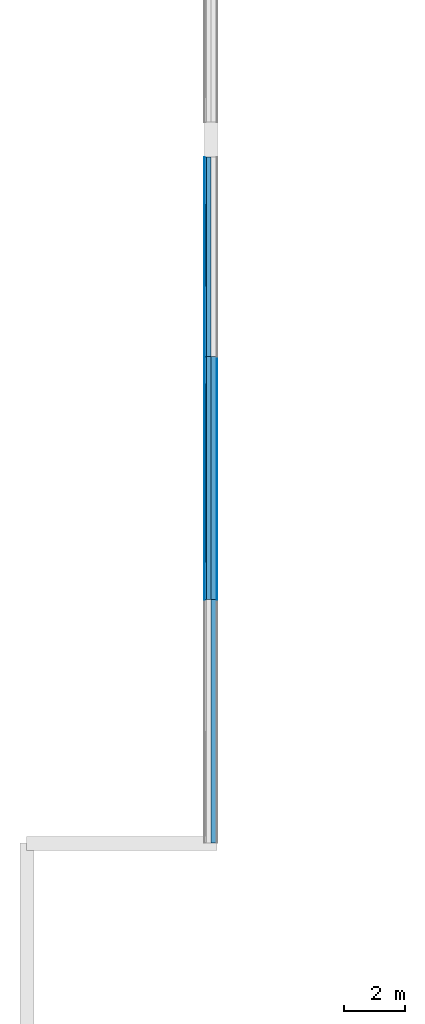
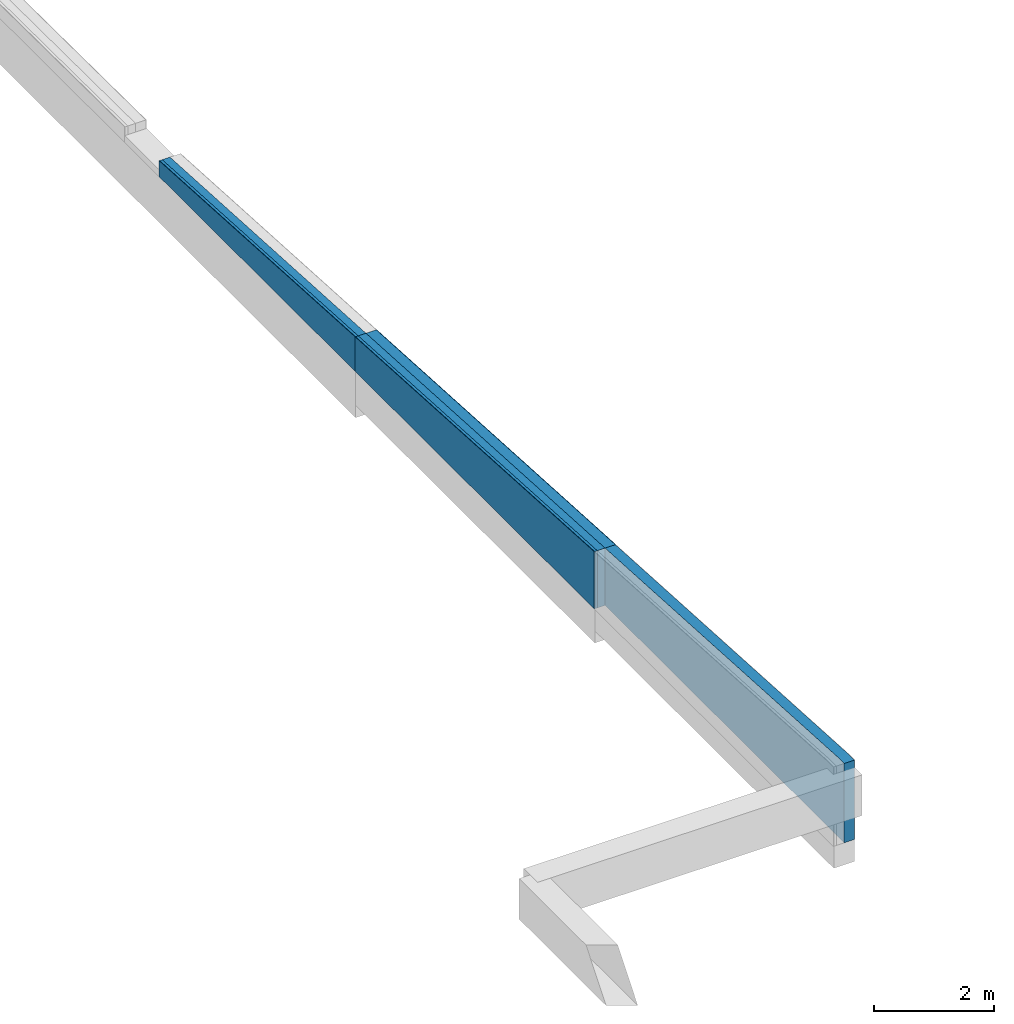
# One storey, part 6 of 17: 9 building element parts, 3 elements without a shape of their own.
"""IFC2X3 building model written with IfcOpenShell, lengths in millimetres."""

from ifc_helpers import new_model, entity, si_unit, converted_unit, derived_unit, money_unit, direction, frame, origin_with_axes, place, context, subcontext, project, spatial, polyline, outline, extrude, boolean, faceted_brep, material, type_object, element, aggregate, save


model = new_model("IFC2X3")

# Units and contexts
model_context = context("Model", 3, precision=0.01, world=origin_with_axes(), true_north=direction((0.0, 1.0)))
body_context = subcontext(model_context, "Body", "Model", "MODEL_VIEW")
ifc_project = project(units=[si_unit("LENGTHUNIT", "METRE", prefix="MILLI"), si_unit("AREAUNIT", "SQUARE_METRE"), si_unit("VOLUMEUNIT", "CUBIC_METRE"), converted_unit("PLANEANGLEUNIT", "DEGREE", entity("IfcPlaneAngleMeasure", 0.0174532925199), si_unit("PLANEANGLEUNIT", "RADIAN"), dimensions=[0, 0, 0, 0, 0, 0, 0]), si_unit("SOLIDANGLEUNIT", "STERADIAN"), money_unit("EUR"), converted_unit("TIMEUNIT", "Year", entity("IfcTimeMeasure", 31556926.0), si_unit("TIMEUNIT", "SECOND"), dimensions=[0, 0, 1, 0, 0, 0, 0]), si_unit("MASSUNIT", "GRAM", prefix="KILO"), si_unit("THERMODYNAMICTEMPERATUREUNIT", "DEGREE_CELSIUS"), si_unit("LUMINOUSINTENSITYUNIT", "LUMEN"), si_unit("ENERGYUNIT", "JOULE", prefix="MEGA"), derived_unit("THERMALCONDUCTANCEUNIT", [(si_unit("POWERUNIT", "WATT"), 1), (si_unit("LENGTHUNIT", "METRE"), -1), (si_unit("THERMODYNAMICTEMPERATUREUNIT", "KELVIN"), -1)]), derived_unit("SPECIFICHEATCAPACITYUNIT", [(si_unit("ENERGYUNIT", "JOULE"), 1), (si_unit("MASSUNIT", "GRAM", prefix="KILO"), -1), (si_unit("THERMODYNAMICTEMPERATUREUNIT", "KELVIN"), -1)]), derived_unit("MASSDENSITYUNIT", [(si_unit("MASSUNIT", "GRAM", prefix="KILO"), 1), (si_unit("VOLUMEUNIT", "CUBIC_METRE"), -1)])], contexts=[model_context])

# Site, building, storey
site_placement = place(None, origin_with_axes())
site = spatial("IfcSite", under=ifc_project, at=site_placement, Name="Puškini 31, Narva", CompositionType="ELEMENT")
building_placement = place(site_placement, origin_with_axes())
building = spatial("IfcBuilding", under=site, at=building_placement, Name="Narva Riigigümnaasium", CompositionType="ELEMENT")
storey_placement = place(building_placement, frame((0.0, 0.0, -6800.0), z_axis=(0.0, 0.0, 1.0), x_axis=(1.0, 0.0, 0.0)))
storey = spatial("IfcBuildingStorey", under=building, at=storey_placement, Name="0.korrus -6.8", CompositionType="ELEMENT", Elevation=-6800.0)

# Wall, building element parts
wall_type = type_object("IfcWallType", Name="G-VS-02 420", PredefinedType="NOTDEFINED")
wall_1_placement = place(storey_placement, frame((22200.0, 181960.149991, 5330.0), z_axis=(0.0, 0.0, 1.0), x_axis=(0.0, -1.0, 0.0)))
wall_1 = element("IfcWall", 1, at=wall_1_placement, inside=storey, type_object=wall_type, Name="Sisesein")
ifc_material_1 = material(Name="Salto-PIR soojustus")
building_element_part_1_placement = place(wall_1_placement, origin_with_axes())
building_element_part_1 = element("IfcBuildingElementPart", 2, at=building_element_part_1_placement, material=ifc_material_1, Name="Salto-PIR soojustus", context=body_context, shape_type="CSG", body=[
    boolean("DIFFERENCE", boolean("DIFFERENCE", boolean("DIFFERENCE", boolean("DIFFERENCE", boolean("DIFFERENCE", boolean("DIFFERENCE", extrude(outline(polyline([(0.0, -150.0), (6560.14999143, -150.0), (6560.14999143, 0.0), (0.0, 0.0), (0.0, -150.0)])), origin_with_axes(), (0.0, 0.0, 1.0), 1200.0), faceted_brep([(0.0, 200.0, 140.0), (0.0, 210.0, 140.0), (0.0, 210.0, 0.0), (0.0, 200.0, 0.0), (3670.14998109, 210.0, 140.0), (3670.14998109, 200.0, 140.0), (3670.14998109, 210.0, 150.0), (6560.14999143, 210.0, 150.0), (6560.14999143, 210.0, 0.0), (6560.14999143, 200.0, 0.0), (6560.14999143, 200.0, 150.0), (3670.14998109, 200.0, 150.0)], [[[0, 1, 2, 3]], [[4, 1, 0, 5]], [[6, 7, 8, 2, 1, 4]], [[9, 3, 2, 8]], [[5, 0, 3, 9, 10, 11]], [[6, 4, 5, 11]], [[7, 6, 11, 10]], [[7, 10, 9, 8]]])), faceted_brep([(6560.14999143, 210.0, 704.771225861), (0.0, 210.0, 324.423502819), (0.0, 210.0, 1200.0), (6560.14999143, 210.0, 1200.0), (0.0, 200.0, 324.423502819), (6560.14999143, 200.0, 704.771225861), (0.0, 200.0, 1200.0), (6560.14999143, 200.0, 1200.0)], [[[0, 1, 2, 3]], [[4, 1, 0, 5]], [[1, 4, 6, 2]], [[2, 6, 7, 3]], [[5, 0, 3, 7]], [[4, 5, 7, 6]]])), faceted_brep([(6560.14999143, 200.0, 704.771225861), (0.0, 200.0, 324.423502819), (0.0, 200.0, 1200.0), (6560.14999143, 200.0, 1200.0), (0.0, 0.0, 324.423502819), (6560.14999143, 0.0, 704.771225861), (0.0, 0.0, 1200.0), (6560.14999143, 0.0, 1200.0)], [[[0, 1, 2, 3]], [[4, 1, 0, 5]], [[1, 4, 6, 2]], [[2, 6, 7, 3]], [[5, 0, 3, 7]], [[4, 5, 7, 6]]])), faceted_brep([(6560.14999143, 0.0, 704.771225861), (0.0, 0.0, 324.423502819), (0.0, 0.0, 1200.0), (6560.14999143, 0.0, 1200.0), (0.0, -150.0, 324.423502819), (6560.14999143, -150.0, 704.771225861), (0.0, -150.0, 1200.0), (6560.14999143, -150.0, 1200.0)], [[[0, 1, 2, 3]], [[4, 1, 0, 5]], [[1, 4, 6, 2]], [[2, 6, 7, 3]], [[5, 0, 3, 7]], [[4, 5, 7, 6]]])), faceted_brep([(6560.14999143, -150.0, 704.771225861), (0.0, -150.0, 324.423502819), (0.0, -150.0, 1200.0), (6560.14999143, -150.0, 1200.0), (0.0, -200.0, 324.423502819), (6560.14999143, -200.0, 704.771225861), (0.0, -200.0, 1200.0), (6560.14999143, -200.0, 1200.0)], [[[0, 1, 2, 3]], [[4, 1, 0, 5]], [[1, 4, 6, 2]], [[2, 6, 7, 3]], [[5, 0, 3, 7]], [[4, 5, 7, 6]]])), faceted_brep([(6560.14999143, -200.0, 704.771225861), (0.0, -200.0, 324.423502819), (0.0, -200.0, 1200.0), (6560.14999143, -200.0, 1200.0), (0.0, -210.0, 324.423502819), (6560.14999143, -210.0, 704.771225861), (0.0, -210.0, 1200.0), (6560.14999143, -210.0, 1200.0)], [[[0, 1, 2, 3]], [[4, 1, 0, 5]], [[1, 4, 6, 2]], [[2, 6, 7, 3]], [[5, 0, 3, 7]], [[4, 5, 7, 6]]])),
])
building_element_part_2_placement = place(wall_1_placement, origin_with_axes())
building_element_part_2 = element("IfcBuildingElementPart", 3, at=building_element_part_2_placement, material=ifc_material_1, Name="Salto-PIR soojustus", context=body_context, shape_type="CSG", body=[
    boolean("DIFFERENCE", boolean("DIFFERENCE", boolean("DIFFERENCE", boolean("DIFFERENCE", boolean("DIFFERENCE", boolean("DIFFERENCE", extrude(outline(polyline([(0.0, -200.0), (6560.14999143, -200.0), (6560.14999143, -150.0), (0.0, -150.0), (0.0, -200.0)])), origin_with_axes(), (0.0, 0.0, 1.0), 1200.0), faceted_brep([(0.0, 200.0, 140.0), (0.0, 210.0, 140.0), (0.0, 210.0, 0.0), (0.0, 200.0, 0.0), (3670.14998109, 210.0, 140.0), (3670.14998109, 200.0, 140.0), (3670.14998109, 210.0, 150.0), (6560.14999143, 210.0, 150.0), (6560.14999143, 210.0, 0.0), (6560.14999143, 200.0, 0.0), (6560.14999143, 200.0, 150.0), (3670.14998109, 200.0, 150.0)], [[[0, 1, 2, 3]], [[4, 1, 0, 5]], [[6, 7, 8, 2, 1, 4]], [[9, 3, 2, 8]], [[5, 0, 3, 9, 10, 11]], [[6, 4, 5, 11]], [[7, 6, 11, 10]], [[7, 10, 9, 8]]])), faceted_brep([(6560.14999143, 210.0, 704.771225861), (0.0, 210.0, 324.423502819), (0.0, 210.0, 1200.0), (6560.14999143, 210.0, 1200.0), (0.0, 200.0, 324.423502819), (6560.14999143, 200.0, 704.771225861), (0.0, 200.0, 1200.0), (6560.14999143, 200.0, 1200.0)], [[[0, 1, 2, 3]], [[4, 1, 0, 5]], [[1, 4, 6, 2]], [[2, 6, 7, 3]], [[5, 0, 3, 7]], [[4, 5, 7, 6]]])), faceted_brep([(6560.14999143, 200.0, 704.771225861), (0.0, 200.0, 324.423502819), (0.0, 200.0, 1200.0), (6560.14999143, 200.0, 1200.0), (0.0, 0.0, 324.423502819), (6560.14999143, 0.0, 704.771225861), (0.0, 0.0, 1200.0), (6560.14999143, 0.0, 1200.0)], [[[0, 1, 2, 3]], [[4, 1, 0, 5]], [[1, 4, 6, 2]], [[2, 6, 7, 3]], [[5, 0, 3, 7]], [[4, 5, 7, 6]]])), faceted_brep([(6560.14999143, 0.0, 704.771225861), (0.0, 0.0, 324.423502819), (0.0, 0.0, 1200.0), (6560.14999143, 0.0, 1200.0), (0.0, -150.0, 324.423502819), (6560.14999143, -150.0, 704.771225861), (0.0, -150.0, 1200.0), (6560.14999143, -150.0, 1200.0)], [[[0, 1, 2, 3]], [[4, 1, 0, 5]], [[1, 4, 6, 2]], [[2, 6, 7, 3]], [[5, 0, 3, 7]], [[4, 5, 7, 6]]])), faceted_brep([(6560.14999143, -150.0, 704.771225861), (0.0, -150.0, 324.423502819), (0.0, -150.0, 1200.0), (6560.14999143, -150.0, 1200.0), (0.0, -200.0, 324.423502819), (6560.14999143, -200.0, 704.771225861), (0.0, -200.0, 1200.0), (6560.14999143, -200.0, 1200.0)], [[[0, 1, 2, 3]], [[4, 1, 0, 5]], [[1, 4, 6, 2]], [[2, 6, 7, 3]], [[5, 0, 3, 7]], [[4, 5, 7, 6]]])), faceted_brep([(6560.14999143, -200.0, 704.771225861), (0.0, -200.0, 324.423502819), (0.0, -200.0, 1200.0), (6560.14999143, -200.0, 1200.0), (0.0, -210.0, 324.423502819), (6560.14999143, -210.0, 704.771225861), (0.0, -210.0, 1200.0), (6560.14999143, -210.0, 1200.0)], [[[0, 1, 2, 3]], [[4, 1, 0, 5]], [[1, 4, 6, 2]], [[2, 6, 7, 3]], [[5, 0, 3, 7]], [[4, 5, 7, 6]]])),
])
ifc_material_2 = material(Name="Krohv")
building_element_part_3_placement = place(wall_1_placement, origin_with_axes())
building_element_part_3 = element("IfcBuildingElementPart", 4, at=building_element_part_3_placement, material=ifc_material_2, Name="Krohv", context=body_context, shape_type="CSG", body=[
    boolean("DIFFERENCE", boolean("DIFFERENCE", boolean("DIFFERENCE", boolean("DIFFERENCE", boolean("DIFFERENCE", boolean("DIFFERENCE", extrude(outline(polyline([(0.0, -210.0), (6560.14999143, -210.0), (6560.14999143, -200.0), (0.0, -200.0), (0.0, -210.0)])), origin_with_axes(), (0.0, 0.0, 1.0), 1200.0), faceted_brep([(0.0, 200.0, 140.0), (0.0, 210.0, 140.0), (0.0, 210.0, 0.0), (0.0, 200.0, 0.0), (3670.14998109, 210.0, 140.0), (3670.14998109, 200.0, 140.0), (3670.14998109, 210.0, 150.0), (6560.14999143, 210.0, 150.0), (6560.14999143, 210.0, 0.0), (6560.14999143, 200.0, 0.0), (6560.14999143, 200.0, 150.0), (3670.14998109, 200.0, 150.0)], [[[0, 1, 2, 3]], [[4, 1, 0, 5]], [[6, 7, 8, 2, 1, 4]], [[9, 3, 2, 8]], [[5, 0, 3, 9, 10, 11]], [[6, 4, 5, 11]], [[7, 6, 11, 10]], [[7, 10, 9, 8]]])), faceted_brep([(6560.14999143, 210.0, 704.771225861), (0.0, 210.0, 324.423502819), (0.0, 210.0, 1200.0), (6560.14999143, 210.0, 1200.0), (0.0, 200.0, 324.423502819), (6560.14999143, 200.0, 704.771225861), (0.0, 200.0, 1200.0), (6560.14999143, 200.0, 1200.0)], [[[0, 1, 2, 3]], [[4, 1, 0, 5]], [[1, 4, 6, 2]], [[2, 6, 7, 3]], [[5, 0, 3, 7]], [[4, 5, 7, 6]]])), faceted_brep([(6560.14999143, 200.0, 704.771225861), (0.0, 200.0, 324.423502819), (0.0, 200.0, 1200.0), (6560.14999143, 200.0, 1200.0), (0.0, 0.0, 324.423502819), (6560.14999143, 0.0, 704.771225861), (0.0, 0.0, 1200.0), (6560.14999143, 0.0, 1200.0)], [[[0, 1, 2, 3]], [[4, 1, 0, 5]], [[1, 4, 6, 2]], [[2, 6, 7, 3]], [[5, 0, 3, 7]], [[4, 5, 7, 6]]])), faceted_brep([(6560.14999143, 0.0, 704.771225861), (0.0, 0.0, 324.423502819), (0.0, 0.0, 1200.0), (6560.14999143, 0.0, 1200.0), (0.0, -150.0, 324.423502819), (6560.14999143, -150.0, 704.771225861), (0.0, -150.0, 1200.0), (6560.14999143, -150.0, 1200.0)], [[[0, 1, 2, 3]], [[4, 1, 0, 5]], [[1, 4, 6, 2]], [[2, 6, 7, 3]], [[5, 0, 3, 7]], [[4, 5, 7, 6]]])), faceted_brep([(6560.14999143, -150.0, 704.771225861), (0.0, -150.0, 324.423502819), (0.0, -150.0, 1200.0), (6560.14999143, -150.0, 1200.0), (0.0, -200.0, 324.423502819), (6560.14999143, -200.0, 704.771225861), (0.0, -200.0, 1200.0), (6560.14999143, -200.0, 1200.0)], [[[0, 1, 2, 3]], [[4, 1, 0, 5]], [[1, 4, 6, 2]], [[2, 6, 7, 3]], [[5, 0, 3, 7]], [[4, 5, 7, 6]]])), faceted_brep([(6560.14999143, -200.0, 704.771225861), (0.0, -200.0, 324.423502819), (0.0, -200.0, 1200.0), (6560.14999143, -200.0, 1200.0), (0.0, -210.0, 324.423502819), (6560.14999143, -210.0, 704.771225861), (0.0, -210.0, 1200.0), (6560.14999143, -210.0, 1200.0)], [[[0, 1, 2, 3]], [[4, 1, 0, 5]], [[1, 4, 6, 2]], [[2, 6, 7, 3]], [[5, 0, 3, 7]], [[4, 5, 7, 6]]])),
])
aggregate(wall_1, [building_element_part_1, building_element_part_2, building_element_part_3])

wall_2_placement = place(storey_placement, frame((22200.0, 175400.0, 5330.0), z_axis=(0.0, 0.0, 1.0), x_axis=(0.0, -1.0, 0.0)))
wall_2 = element("IfcWall", 5, at=wall_2_placement, inside=storey, type_object=wall_type, Name="Sisesein")
ifc_material_3 = material(Name="Salto-siseviimistlus")
building_element_part_4_placement = place(wall_2_placement, origin_with_axes())
building_element_part_4 = element("IfcBuildingElementPart", 6, at=building_element_part_4_placement, material=ifc_material_3, Name="Salto-siseviimistlus", context=body_context, shape_type="CSG", body=[
    boolean("DIFFERENCE", boolean("DIFFERENCE", boolean("DIFFERENCE", boolean("DIFFERENCE", boolean("DIFFERENCE", boolean("DIFFERENCE", extrude(outline(polyline([(0.0, 200.0), (7999.9998762, 200.0), (7999.9998762, 210.0), (0.0, 210.0), (0.0, 200.0)])), origin_with_axes(), (0.0, 0.0, 1.0), 1500.0), faceted_brep([(0.0, 200.0, 150.0), (-0.000115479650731, 210.0, 150.0), (0.0, 210.0, 0.0), (0.0, 200.0, 0.0), (7999.9998762, 210.0, 150.0), (7999.9998762, 200.0, 150.0), (7999.9998762, 210.0, 0.0), (7999.9998762, 200.0, 0.0)], [[[0, 1, 2, 3]], [[4, 1, 0, 5]], [[1, 4, 6, 2]], [[2, 6, 7, 3]], [[5, 0, 3, 7]], [[4, 5, 7, 6]]])), faceted_brep([(7999.9998762, 210.0, 1168.5993001), (-6.80242635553e-05, 210.0, 704.771221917), (0.0, 210.0, 1500.0), (7999.9998762, 210.0, 1500.0), (0.0, 200.0, 704.771225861), (7999.9998762, 200.0, 1168.5993001), (0.0, 200.0, 1500.0), (7999.9998762, 200.0, 1500.0)], [[[0, 1, 2, 3]], [[4, 1, 0, 5]], [[1, 4, 6, 2]], [[7, 3, 2, 6]], [[5, 0, 3, 7]], [[4, 5, 7, 6]]])), faceted_brep([(7999.9998762, 200.0, 1168.5993001), (0.0, 200.0, 704.771225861), (0.0, 200.0, 1500.0), (7999.9998762, 200.0, 1500.0), (0.0, 0.0, 704.771225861), (7999.9998762, 0.0, 1168.5993001), (0.0, 0.0, 1500.0), (7999.9998762, 0.0, 1500.0)], [[[0, 1, 2, 3]], [[4, 1, 0, 5]], [[1, 4, 6, 2]], [[2, 6, 7, 3]], [[5, 0, 3, 7]], [[4, 5, 7, 6]]])), faceted_brep([(7999.9998762, 0.0, 1168.5993001), (0.0, 0.0, 704.771225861), (0.0, 0.0, 1500.0), (7999.9998762, 0.0, 1500.0), (0.0, -150.0, 704.771225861), (7999.9998762, -150.0, 1168.5993001), (0.0, -150.0, 1500.0), (7999.9998762, -150.0, 1500.0)], [[[0, 1, 2, 3]], [[4, 1, 0, 5]], [[1, 4, 6, 2]], [[2, 6, 7, 3]], [[5, 0, 3, 7]], [[4, 5, 7, 6]]])), faceted_brep([(7999.9998762, -150.0, 1168.5993001), (0.0, -150.0, 704.771225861), (0.0, -150.0, 1500.0), (7999.9998762, -150.0, 1500.0), (0.0, -200.0, 704.771225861), (7999.9998762, -200.0, 1168.5993001), (0.0, -200.0, 1500.0), (7999.9998762, -200.0, 1500.0)], [[[0, 1, 2, 3]], [[4, 1, 0, 5]], [[1, 4, 6, 2]], [[2, 6, 7, 3]], [[5, 0, 3, 7]], [[4, 5, 7, 6]]])), faceted_brep([(7999.9998762, -200.0, 1168.5993001), (0.0, -200.0, 704.771225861), (0.0, -200.0, 1500.0), (7999.9998762, -200.0, 1500.0), (0.0, -210.0, 704.771225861), (7999.9998762, -210.0, 1168.5993001), (0.0, -210.0, 1500.0), (7999.9998762, -210.0, 1500.0)], [[[0, 1, 2, 3]], [[4, 1, 0, 5]], [[1, 4, 6, 2]], [[2, 6, 7, 3]], [[5, 0, 3, 7]], [[4, 5, 7, 6]]])),
])
ifc_material_4 = material(Name="Betoon element")
building_element_part_5_placement = place(wall_2_placement, origin_with_axes())
building_element_part_5 = element("IfcBuildingElementPart", 7, at=building_element_part_5_placement, material=ifc_material_4, Name="Betoon element", context=body_context, shape_type="CSG", body=[
    boolean("DIFFERENCE", boolean("DIFFERENCE", boolean("DIFFERENCE", boolean("DIFFERENCE", boolean("DIFFERENCE", boolean("DIFFERENCE", extrude(outline(polyline([(0.0, 0.0), (7999.9998762, 0.0), (7999.9998762, 200.0), (0.0, 200.0), (0.0, 0.0)])), origin_with_axes(), (0.0, 0.0, 1.0), 1500.0), faceted_brep([(0.0, 200.0, 150.0), (-0.000115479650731, 210.0, 150.0), (0.0, 210.0, 0.0), (0.0, 200.0, 0.0), (7999.9998762, 210.0, 150.0), (7999.9998762, 200.0, 150.0), (7999.9998762, 210.0, 0.0), (7999.9998762, 200.0, 0.0)], [[[0, 1, 2, 3]], [[4, 1, 0, 5]], [[1, 4, 6, 2]], [[2, 6, 7, 3]], [[5, 0, 3, 7]], [[4, 5, 7, 6]]])), faceted_brep([(7999.9998762, 210.0, 1168.5993001), (-6.80242635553e-05, 210.0, 704.771221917), (0.0, 210.0, 1500.0), (7999.9998762, 210.0, 1500.0), (0.0, 200.0, 704.771225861), (7999.9998762, 200.0, 1168.5993001), (0.0, 200.0, 1500.0), (7999.9998762, 200.0, 1500.0)], [[[0, 1, 2, 3]], [[4, 1, 0, 5]], [[1, 4, 6, 2]], [[7, 3, 2, 6]], [[5, 0, 3, 7]], [[4, 5, 7, 6]]])), faceted_brep([(7999.9998762, 200.0, 1168.5993001), (0.0, 200.0, 704.771225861), (0.0, 200.0, 1500.0), (7999.9998762, 200.0, 1500.0), (0.0, 0.0, 704.771225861), (7999.9998762, 0.0, 1168.5993001), (0.0, 0.0, 1500.0), (7999.9998762, 0.0, 1500.0)], [[[0, 1, 2, 3]], [[4, 1, 0, 5]], [[1, 4, 6, 2]], [[2, 6, 7, 3]], [[5, 0, 3, 7]], [[4, 5, 7, 6]]])), faceted_brep([(7999.9998762, 0.0, 1168.5993001), (0.0, 0.0, 704.771225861), (0.0, 0.0, 1500.0), (7999.9998762, 0.0, 1500.0), (0.0, -150.0, 704.771225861), (7999.9998762, -150.0, 1168.5993001), (0.0, -150.0, 1500.0), (7999.9998762, -150.0, 1500.0)], [[[0, 1, 2, 3]], [[4, 1, 0, 5]], [[1, 4, 6, 2]], [[2, 6, 7, 3]], [[5, 0, 3, 7]], [[4, 5, 7, 6]]])), faceted_brep([(7999.9998762, -150.0, 1168.5993001), (0.0, -150.0, 704.771225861), (0.0, -150.0, 1500.0), (7999.9998762, -150.0, 1500.0), (0.0, -200.0, 704.771225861), (7999.9998762, -200.0, 1168.5993001), (0.0, -200.0, 1500.0), (7999.9998762, -200.0, 1500.0)], [[[0, 1, 2, 3]], [[4, 1, 0, 5]], [[1, 4, 6, 2]], [[2, 6, 7, 3]], [[5, 0, 3, 7]], [[4, 5, 7, 6]]])), faceted_brep([(7999.9998762, -200.0, 1168.5993001), (0.0, -200.0, 704.771225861), (0.0, -200.0, 1500.0), (7999.9998762, -200.0, 1500.0), (0.0, -210.0, 704.771225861), (7999.9998762, -210.0, 1168.5993001), (0.0, -210.0, 1500.0), (7999.9998762, -210.0, 1500.0)], [[[0, 1, 2, 3]], [[4, 1, 0, 5]], [[1, 4, 6, 2]], [[2, 6, 7, 3]], [[5, 0, 3, 7]], [[4, 5, 7, 6]]])),
])
building_element_part_6_placement = place(wall_2_placement, origin_with_axes())
building_element_part_6 = element("IfcBuildingElementPart", 8, at=building_element_part_6_placement, material=ifc_material_1, Name="Salto-PIR soojustus", context=body_context, shape_type="CSG", body=[
    boolean("DIFFERENCE", boolean("DIFFERENCE", boolean("DIFFERENCE", boolean("DIFFERENCE", boolean("DIFFERENCE", boolean("DIFFERENCE", extrude(outline(polyline([(0.0, -150.0), (7999.9998762, -150.0), (7999.9998762, 0.0), (0.0, 0.0), (0.0, -150.0)])), origin_with_axes(), (0.0, 0.0, 1.0), 1500.0), faceted_brep([(0.0, 200.0, 150.0), (-0.000115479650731, 210.0, 150.0), (0.0, 210.0, 0.0), (0.0, 200.0, 0.0), (7999.9998762, 210.0, 150.0), (7999.9998762, 200.0, 150.0), (7999.9998762, 210.0, 0.0), (7999.9998762, 200.0, 0.0)], [[[0, 1, 2, 3]], [[4, 1, 0, 5]], [[1, 4, 6, 2]], [[2, 6, 7, 3]], [[5, 0, 3, 7]], [[4, 5, 7, 6]]])), faceted_brep([(7999.9998762, 210.0, 1168.5993001), (-6.80242635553e-05, 210.0, 704.771221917), (0.0, 210.0, 1500.0), (7999.9998762, 210.0, 1500.0), (0.0, 200.0, 704.771225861), (7999.9998762, 200.0, 1168.5993001), (0.0, 200.0, 1500.0), (7999.9998762, 200.0, 1500.0)], [[[0, 1, 2, 3]], [[4, 1, 0, 5]], [[1, 4, 6, 2]], [[7, 3, 2, 6]], [[5, 0, 3, 7]], [[4, 5, 7, 6]]])), faceted_brep([(7999.9998762, 200.0, 1168.5993001), (0.0, 200.0, 704.771225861), (0.0, 200.0, 1500.0), (7999.9998762, 200.0, 1500.0), (0.0, 0.0, 704.771225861), (7999.9998762, 0.0, 1168.5993001), (0.0, 0.0, 1500.0), (7999.9998762, 0.0, 1500.0)], [[[0, 1, 2, 3]], [[4, 1, 0, 5]], [[1, 4, 6, 2]], [[2, 6, 7, 3]], [[5, 0, 3, 7]], [[4, 5, 7, 6]]])), faceted_brep([(7999.9998762, 0.0, 1168.5993001), (0.0, 0.0, 704.771225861), (0.0, 0.0, 1500.0), (7999.9998762, 0.0, 1500.0), (0.0, -150.0, 704.771225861), (7999.9998762, -150.0, 1168.5993001), (0.0, -150.0, 1500.0), (7999.9998762, -150.0, 1500.0)], [[[0, 1, 2, 3]], [[4, 1, 0, 5]], [[1, 4, 6, 2]], [[2, 6, 7, 3]], [[5, 0, 3, 7]], [[4, 5, 7, 6]]])), faceted_brep([(7999.9998762, -150.0, 1168.5993001), (0.0, -150.0, 704.771225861), (0.0, -150.0, 1500.0), (7999.9998762, -150.0, 1500.0), (0.0, -200.0, 704.771225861), (7999.9998762, -200.0, 1168.5993001), (0.0, -200.0, 1500.0), (7999.9998762, -200.0, 1500.0)], [[[0, 1, 2, 3]], [[4, 1, 0, 5]], [[1, 4, 6, 2]], [[2, 6, 7, 3]], [[5, 0, 3, 7]], [[4, 5, 7, 6]]])), faceted_brep([(7999.9998762, -200.0, 1168.5993001), (0.0, -200.0, 704.771225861), (0.0, -200.0, 1500.0), (7999.9998762, -200.0, 1500.0), (0.0, -210.0, 704.771225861), (7999.9998762, -210.0, 1168.5993001), (0.0, -210.0, 1500.0), (7999.9998762, -210.0, 1500.0)], [[[0, 1, 2, 3]], [[4, 1, 0, 5]], [[1, 4, 6, 2]], [[2, 6, 7, 3]], [[5, 0, 3, 7]], [[4, 5, 7, 6]]])),
])
building_element_part_7_placement = place(wall_2_placement, origin_with_axes())
building_element_part_7 = element("IfcBuildingElementPart", 9, at=building_element_part_7_placement, material=ifc_material_1, Name="Salto-PIR soojustus", context=body_context, shape_type="CSG", body=[
    boolean("DIFFERENCE", boolean("DIFFERENCE", boolean("DIFFERENCE", boolean("DIFFERENCE", boolean("DIFFERENCE", boolean("DIFFERENCE", extrude(outline(polyline([(0.0, -200.0), (7999.9998762, -200.0), (7999.9998762, -150.0), (0.0, -150.0), (0.0, -200.0)])), origin_with_axes(), (0.0, 0.0, 1.0), 1500.0), faceted_brep([(0.0, 200.0, 150.0), (-0.000115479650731, 210.0, 150.0), (0.0, 210.0, 0.0), (0.0, 200.0, 0.0), (7999.9998762, 210.0, 150.0), (7999.9998762, 200.0, 150.0), (7999.9998762, 210.0, 0.0), (7999.9998762, 200.0, 0.0)], [[[0, 1, 2, 3]], [[4, 1, 0, 5]], [[1, 4, 6, 2]], [[2, 6, 7, 3]], [[5, 0, 3, 7]], [[4, 5, 7, 6]]])), faceted_brep([(7999.9998762, 210.0, 1168.5993001), (-6.80242635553e-05, 210.0, 704.771221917), (0.0, 210.0, 1500.0), (7999.9998762, 210.0, 1500.0), (0.0, 200.0, 704.771225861), (7999.9998762, 200.0, 1168.5993001), (0.0, 200.0, 1500.0), (7999.9998762, 200.0, 1500.0)], [[[0, 1, 2, 3]], [[4, 1, 0, 5]], [[1, 4, 6, 2]], [[7, 3, 2, 6]], [[5, 0, 3, 7]], [[4, 5, 7, 6]]])), faceted_brep([(7999.9998762, 200.0, 1168.5993001), (0.0, 200.0, 704.771225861), (0.0, 200.0, 1500.0), (7999.9998762, 200.0, 1500.0), (0.0, 0.0, 704.771225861), (7999.9998762, 0.0, 1168.5993001), (0.0, 0.0, 1500.0), (7999.9998762, 0.0, 1500.0)], [[[0, 1, 2, 3]], [[4, 1, 0, 5]], [[1, 4, 6, 2]], [[2, 6, 7, 3]], [[5, 0, 3, 7]], [[4, 5, 7, 6]]])), faceted_brep([(7999.9998762, 0.0, 1168.5993001), (0.0, 0.0, 704.771225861), (0.0, 0.0, 1500.0), (7999.9998762, 0.0, 1500.0), (0.0, -150.0, 704.771225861), (7999.9998762, -150.0, 1168.5993001), (0.0, -150.0, 1500.0), (7999.9998762, -150.0, 1500.0)], [[[0, 1, 2, 3]], [[4, 1, 0, 5]], [[1, 4, 6, 2]], [[2, 6, 7, 3]], [[5, 0, 3, 7]], [[4, 5, 7, 6]]])), faceted_brep([(7999.9998762, -150.0, 1168.5993001), (0.0, -150.0, 704.771225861), (0.0, -150.0, 1500.0), (7999.9998762, -150.0, 1500.0), (0.0, -200.0, 704.771225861), (7999.9998762, -200.0, 1168.5993001), (0.0, -200.0, 1500.0), (7999.9998762, -200.0, 1500.0)], [[[0, 1, 2, 3]], [[4, 1, 0, 5]], [[1, 4, 6, 2]], [[2, 6, 7, 3]], [[5, 0, 3, 7]], [[4, 5, 7, 6]]])), faceted_brep([(7999.9998762, -200.0, 1168.5993001), (0.0, -200.0, 704.771225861), (0.0, -200.0, 1500.0), (7999.9998762, -200.0, 1500.0), (0.0, -210.0, 704.771225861), (7999.9998762, -210.0, 1168.5993001), (0.0, -210.0, 1500.0), (7999.9998762, -210.0, 1500.0)], [[[0, 1, 2, 3]], [[4, 1, 0, 5]], [[1, 4, 6, 2]], [[2, 6, 7, 3]], [[5, 0, 3, 7]], [[4, 5, 7, 6]]])),
])
building_element_part_8_placement = place(wall_2_placement, origin_with_axes())
building_element_part_8 = element("IfcBuildingElementPart", 10, at=building_element_part_8_placement, material=ifc_material_2, Name="Krohv", context=body_context, shape_type="CSG", body=[
    boolean("DIFFERENCE", boolean("DIFFERENCE", boolean("DIFFERENCE", boolean("DIFFERENCE", boolean("DIFFERENCE", boolean("DIFFERENCE", extrude(outline(polyline([(0.0, -210.0), (7999.9998762, -210.0), (7999.9998762, -200.0), (0.0, -200.0), (0.0, -210.0)])), origin_with_axes(), (0.0, 0.0, 1.0), 1500.0), faceted_brep([(0.0, 200.0, 150.0), (-0.000115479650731, 210.0, 150.0), (0.0, 210.0, 0.0), (0.0, 200.0, 0.0), (7999.9998762, 210.0, 150.0), (7999.9998762, 200.0, 150.0), (7999.9998762, 210.0, 0.0), (7999.9998762, 200.0, 0.0)], [[[0, 1, 2, 3]], [[4, 1, 0, 5]], [[1, 4, 6, 2]], [[2, 6, 7, 3]], [[5, 0, 3, 7]], [[4, 5, 7, 6]]])), faceted_brep([(7999.9998762, 210.0, 1168.5993001), (-6.80242635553e-05, 210.0, 704.771221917), (0.0, 210.0, 1500.0), (7999.9998762, 210.0, 1500.0), (0.0, 200.0, 704.771225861), (7999.9998762, 200.0, 1168.5993001), (0.0, 200.0, 1500.0), (7999.9998762, 200.0, 1500.0)], [[[0, 1, 2, 3]], [[4, 1, 0, 5]], [[1, 4, 6, 2]], [[7, 3, 2, 6]], [[5, 0, 3, 7]], [[4, 5, 7, 6]]])), faceted_brep([(7999.9998762, 200.0, 1168.5993001), (0.0, 200.0, 704.771225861), (0.0, 200.0, 1500.0), (7999.9998762, 200.0, 1500.0), (0.0, 0.0, 704.771225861), (7999.9998762, 0.0, 1168.5993001), (0.0, 0.0, 1500.0), (7999.9998762, 0.0, 1500.0)], [[[0, 1, 2, 3]], [[4, 1, 0, 5]], [[1, 4, 6, 2]], [[2, 6, 7, 3]], [[5, 0, 3, 7]], [[4, 5, 7, 6]]])), faceted_brep([(7999.9998762, 0.0, 1168.5993001), (0.0, 0.0, 704.771225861), (0.0, 0.0, 1500.0), (7999.9998762, 0.0, 1500.0), (0.0, -150.0, 704.771225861), (7999.9998762, -150.0, 1168.5993001), (0.0, -150.0, 1500.0), (7999.9998762, -150.0, 1500.0)], [[[0, 1, 2, 3]], [[4, 1, 0, 5]], [[1, 4, 6, 2]], [[2, 6, 7, 3]], [[5, 0, 3, 7]], [[4, 5, 7, 6]]])), faceted_brep([(7999.9998762, -150.0, 1168.5993001), (0.0, -150.0, 704.771225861), (0.0, -150.0, 1500.0), (7999.9998762, -150.0, 1500.0), (0.0, -200.0, 704.771225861), (7999.9998762, -200.0, 1168.5993001), (0.0, -200.0, 1500.0), (7999.9998762, -200.0, 1500.0)], [[[0, 1, 2, 3]], [[4, 1, 0, 5]], [[1, 4, 6, 2]], [[2, 6, 7, 3]], [[5, 0, 3, 7]], [[4, 5, 7, 6]]])), faceted_brep([(7999.9998762, -200.0, 1168.5993001), (0.0, -200.0, 704.771225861), (0.0, -200.0, 1500.0), (7999.9998762, -200.0, 1500.0), (0.0, -210.0, 704.771225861), (7999.9998762, -210.0, 1168.5993001), (0.0, -210.0, 1500.0), (7999.9998762, -210.0, 1500.0)], [[[0, 1, 2, 3]], [[4, 1, 0, 5]], [[1, 4, 6, 2]], [[2, 6, 7, 3]], [[5, 0, 3, 7]], [[4, 5, 7, 6]]])),
])
aggregate(wall_2, [building_element_part_4, building_element_part_5, building_element_part_6, building_element_part_7, building_element_part_8])

# Wall, building element part
wall_3_placement = place(storey_placement, frame((22200.0, 167400.000124, 5330.0), z_axis=(0.0, 0.0, 1.0), x_axis=(0.0, -1.0, 0.0)))
wall_3 = element("IfcWall", 11, at=wall_3_placement, inside=storey, type_object=wall_type, Name="Sisesein")
building_element_part_9_placement = place(wall_3_placement, origin_with_axes())
solid = boolean("DIFFERENCE", boolean("DIFFERENCE", boolean("DIFFERENCE", boolean("DIFFERENCE", boolean("DIFFERENCE", boolean("DIFFERENCE", boolean("DIFFERENCE", boolean("DIFFERENCE", extrude(outline(polyline([(0.0, 0.0), (8250.0001238, 0.0), (8250.0001238, 200.0), (0.0, 200.0), (0.0, 0.0)])), origin_with_axes(), (0.0, 0.0, 1.0), 1620.00000268), faceted_brep([(8000.0001238, 209.999998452, 640.0), (7800.0001238, 209.999998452, 640.0), (7800.0001238, 209.999998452, 1470.0), (8000.0001238, 209.999998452, 1470.0), (8000.0001238, 210.0, 1620.00000268), (8250.0001238, 210.0, 1620.00000268), (8250.0001238, 210.0, 0.0), (8000.0001238, 210.0, 0.0), (8000.0001238, 199.99999894, 640.0), (7800.0001238, 199.999997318, 640.0), (7800.0001238, 199.999997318, 1470.0), (8000.0001238, 199.999997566, 1470.0), (8000.0001238, 199.999997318, 1620.00000268), (8250.0001238, 200.0, 1620.00000268), (8250.0001238, 200.0, 0.0), (8000.0001238, 200.0, 0.0)], [[[0, 1, 2, 3, 4, 5, 6, 7]], [[1, 0, 8, 9]], [[2, 1, 9, 10]], [[3, 2, 10, 11]], [[12, 4, 3, 11]], [[4, 12, 13, 5]], [[13, 14, 6, 5]], [[15, 7, 6, 14]], [[0, 7, 15, 8]], [[8, 15, 14, 13, 12, 11, 10, 9]]])), faceted_brep([(0.0, 200.0, 150.0), (0.0, 210.0, 150.0), (0.0, 210.0, 0.0), (0.0, 200.0, 0.0), (4470.28537503, 209.999998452, 150.0), (190.000188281, 199.999997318, 150.0), (4470.28537503, 199.999997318, 150.0), (4470.28537503, 210.0, 0.0), (4470.28537503, 200.0, 0.0)], [[[0, 1, 2, 3]], [[4, 1, 0, 5, 6]], [[4, 7, 2, 1]], [[7, 8, 3, 2]], [[5, 0, 3, 8, 6]], [[7, 4, 6, 8]]])), faceted_brep([(7785.65542872, 210.0, 1620.00000261), (0.0, 210.0, 1168.5993001), (0.0, 210.0, 1620.00000268), (0.0, 200.0, 1168.5993001), (7785.65542872, 199.99999739, 1620.00000261), (0.0, 200.0, 1620.00000268)], [[[0, 1, 2]], [[3, 1, 0, 4]], [[1, 3, 5, 2]], [[4, 0, 2, 5]], [[3, 4, 5]]])), faceted_brep([(8000.0001238, 199.999997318, 1620.00000268), (8250.0001238, 200.0, 1620.00000268), (8250.0001238, 200.0, 0.0), (8000.0001238, 200.0, 0.0), (8000.0001238, 0.0, 1620.00000268), (8250.0001238, 0.0, 1620.00000268), (8250.0001238, 0.0, 0.0), (8000.0001238, 0.0, 0.0)], [[[0, 1, 2, 3]], [[0, 4, 5, 1]], [[5, 6, 2, 1]], [[7, 3, 2, 6]], [[4, 0, 3, 7]], [[7, 6, 5, 4]]])), faceted_brep([(7785.65542872, 199.99999739, 1620.00000261), (0.0, 200.0, 1168.5993001), (0.0, 200.0, 1620.00000268), (0.0, 0.0, 1168.5993001), (7785.65542872, 0.0, 1620.00000261), (0.0, 0.0, 1620.00000268)], [[[0, 1, 2]], [[3, 1, 0, 4]], [[1, 3, 5, 2]], [[4, 0, 2, 5]], [[3, 4, 5]]])), faceted_brep([(8000.0001238, 0.0, 640.0), (7850.0001238, 0.0, 640.0), (7850.0001238, 0.0, 1470.0), (8000.0001238, 0.0, 1470.0), (8000.0001238, 0.0, 1620.00000268), (8250.0001238, 0.0, 1620.00000268), (8250.0001238, 0.0, 0.0), (8000.0001238, 0.0, 0.0), (8000.0001238, -150.0, 640.0), (7850.0001238, -150.0, 640.0), (7850.0001238, -150.0, 1470.0), (8000.0001238, -150.0, 1470.0), (8000.0001238, -150.0, 1620.00000268), (8250.0001238, -150.0, 1620.00000268), (8250.0001238, -150.0, 0.0), (8000.0001238, -150.0, 0.0)], [[[0, 1, 2, 3, 4, 5, 6, 7]], [[1, 0, 8, 9]], [[2, 1, 9, 10]], [[3, 2, 10, 11]], [[12, 4, 3, 11]], [[4, 12, 13, 5]], [[13, 14, 6, 5]], [[15, 7, 6, 14]], [[7, 15, 8, 0]], [[8, 15, 14, 13, 12, 11, 10, 9]]])), faceted_brep([(7785.65542872, 0.0, 1620.00000261), (0.0, 0.0, 1168.5993001), (0.0, 0.0, 1620.00000268), (0.0, -150.0, 1168.5993001), (7785.65542872, -150.0, 1620.00000261), (0.0, -150.0, 1620.00000268)], [[[0, 1, 2]], [[3, 1, 0, 4]], [[1, 3, 5, 2]], [[4, 0, 2, 5]], [[3, 4, 5]]])), faceted_brep([(7850.0001238, -150.0, 640.0), (7800.0001238, -150.0, 640.0), (7800.0001238, -150.0, 1470.0), (7850.0001238, -150.0, 1470.0), (8000.0001238, -150.0, 1470.0), (8000.0001238, -150.0, 1620.00000268), (8250.0001238, -150.0, 1620.00000268), (8250.0001238, -150.0, 0.0), (8000.0001238, -150.0, 0.0), (8000.0001238, -150.0, 640.0), (8000.0001238, -200.0, 640.0), (7800.0001238, -199.999997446, 640.0), (7800.0001238, -199.999997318, 1470.0), (8000.0001238, -199.999997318, 1470.0), (8000.0001238, -199.999997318, 1620.00000268), (8250.0001238, -200.0, 1620.00000268), (8250.0001238, -200.0, 0.0), (8000.0001238, -200.0, 0.0)], [[[0, 1, 2, 3, 4, 5, 6, 7, 8, 9]], [[1, 0, 9, 10, 11]], [[2, 1, 11, 12]], [[3, 2, 12, 13, 4]], [[14, 5, 4, 13]], [[5, 14, 15, 6]], [[15, 16, 7, 6]], [[17, 8, 7, 16]], [[9, 8, 17, 10]], [[10, 17, 16, 15, 14, 13, 12, 11]]]))
building_element_part_9 = element("IfcBuildingElementPart", 12, at=building_element_part_9_placement, material=ifc_material_4, Name="Betoon element", context=body_context, shape_type="CSG", body=[
    boolean("DIFFERENCE", boolean("DIFFERENCE", boolean("DIFFERENCE", solid, faceted_brep([(7785.65542872, -150.0, 1620.00000261), (0.0, -150.0, 1168.5993001), (0.0, -150.0, 1620.00000268), (0.0, -200.0, 1168.5993001), (7785.65542872, -199.99999739, 1620.00000261), (0.0, -200.0, 1620.00000268)], [[[0, 1, 2]], [[3, 1, 0, 4]], [[1, 3, 5, 2]], [[4, 0, 2, 5]], [[3, 4, 5]]])), faceted_brep([(7790.0001238, -199.999997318, 640.0), (7790.0001238, -199.999997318, 1470.0), (8000.0001238, -199.999997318, 1470.0), (8000.0001238, -199.999997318, 1620.00000268), (8250.0001238, -200.0, 1620.00000268), (8250.0001238, -200.0, 0.0), (8000.0001238, -200.0, 0.0), (8000.0001238, -200.0, 640.0), (7790.0001238, -210.0, 640.0), (7790.0001238, -210.0, 1470.0), (8000.0001238, -210.0, 1470.0), (8000.0001238, -210.0, 1620.00000268), (8250.0001238, -210.0, 1620.00000268), (8250.0001238, -210.0, 0.0), (8000.0001238, -210.0, 0.0), (8000.0001238, -210.0, 640.0)], [[[0, 1, 2, 3, 4, 5, 6, 7]], [[1, 0, 8, 9]], [[1, 9, 10, 2]], [[11, 3, 2, 10]], [[3, 11, 12, 4]], [[12, 13, 5, 4]], [[14, 6, 5, 13]], [[6, 14, 15, 7]], [[0, 7, 15, 8]], [[15, 14, 13, 12, 11, 10, 9, 8]]])), faceted_brep([(7785.65542872, -199.99999739, 1620.00000261), (0.0, -200.0, 1168.5993001), (0.0, -200.0, 1620.00000268), (0.0, -210.0, 1168.5993001), (7785.65542872, -210.0, 1620.00000261), (0.0, -210.0, 1620.00000268)], [[[0, 1, 2]], [[3, 1, 0, 4]], [[1, 3, 5, 2]], [[4, 0, 2, 5]], [[3, 4, 5]]])),
])
aggregate(wall_3, [building_element_part_9])

save(model, "model.ifc")
